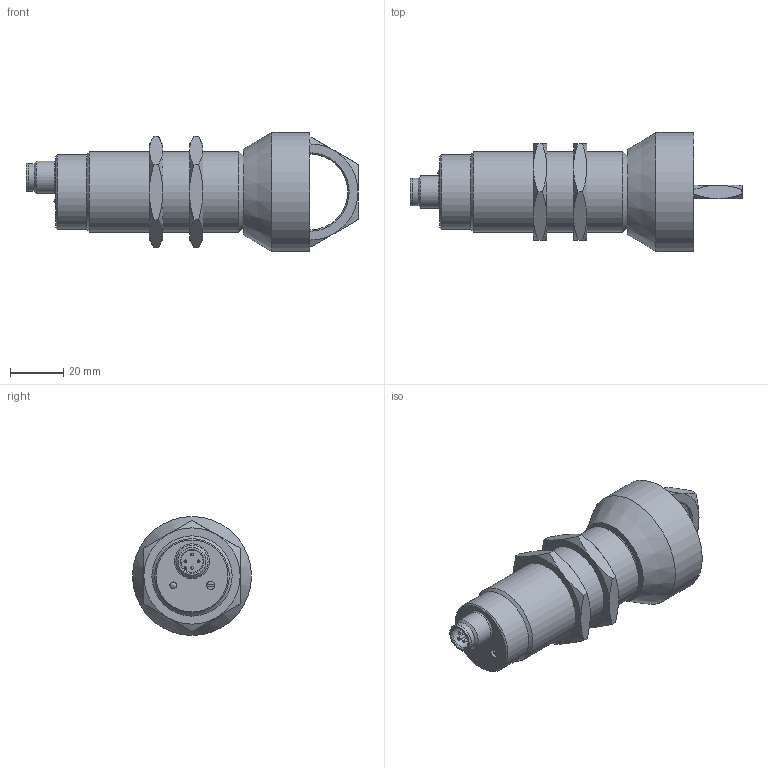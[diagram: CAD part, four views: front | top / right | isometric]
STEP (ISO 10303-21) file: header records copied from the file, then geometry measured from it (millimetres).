
FILE_DESCRIPTION( ( 'Unknown' ), '1' );
FILE_NAME( '//baumerholding.org/frauenfeld/bereich/BECH/Services/me_CAD/Solid Edge/Models/Dokumentationen/Ultraschall/UxAM 50/Vereinfachte Modelle/Neutralformate/UxAM_50_Pot_S14.stp', 'Unknown', ( 'Unknown' ), ( 'Unknown' ), 'XStep 1.0', 'Unknown', ' ' );
FILE_SCHEMA( ( 'CONFIG_CONTROL_DESIGN' ) );
Length unit declared in the file: millimetre
Products named in the file (3): Assem1; 1; 2
Bounding box: 124.14 x 44.5 x 44.5 mm (x, y, z)
Volume: 173886.9 mm3; surface area: 32067.3 mm2
Topology: 5 solids, 5 shells, 171 faces, 399 edges, 248 vertices
Faces by surface type: cone 54, plane 52, cylinder 51, sphere 12, torus 2
Full cylindrical faces by diameter (mm): 1 x8, 3.1 x2, 8.3 x2, 10.3 x2, 10.4 x2, 12 x2, 27.9 x2, 28.376 x3, 30 x4, 44.5 x2
Entity records: 1994 total; most frequent: CARTESIAN_POINT 457, DIRECTION 310, ORIENTED_EDGE 238, AXIS2_PLACEMENT_3D 141, EDGE_CURVE 119, EDGE_LOOP 107, FACE_OUTER_BOUND 86, VERTEX_POINT 86
